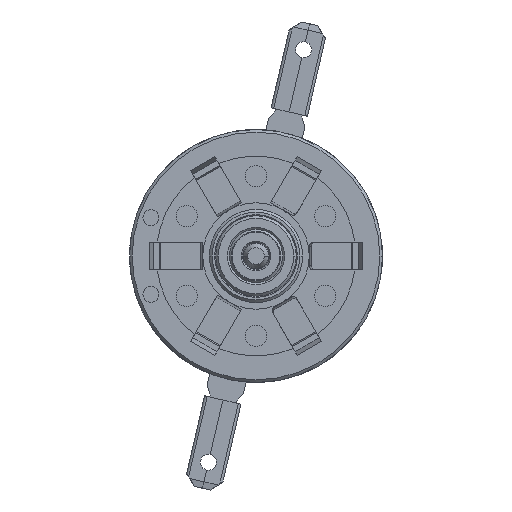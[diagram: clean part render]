
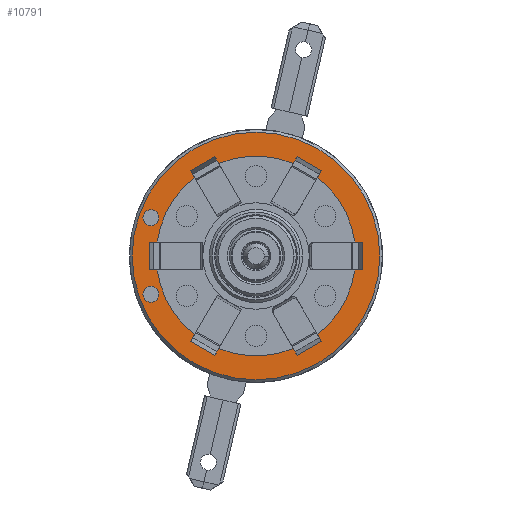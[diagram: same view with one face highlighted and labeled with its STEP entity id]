
A CAD part, left-side view. The second image highlights one B-rep face of the part: STEP entity #10791.
In plain terms, the highlighted planar face has unit normal (-1, 0, 0).
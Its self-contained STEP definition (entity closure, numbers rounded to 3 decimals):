
#2899=CARTESIAN_POINT('',(-1.4,0.,0.));
#2900=DIRECTION('',(-1.,0.,0.));
#2901=DIRECTION('',(0.,-1.,0.));
#2902=AXIS2_PLACEMENT_3D('',#2899,#2900,#2901);
#2907=CARTESIAN_POINT('',(-1.4,0.,0.));
#2908=DIRECTION('',(-1.,0.,0.));
#2909=DIRECTION('',(0.,1.,0.));
#2910=AXIS2_PLACEMENT_3D('',#2907,#2908,#2909);
#2915=CARTESIAN_POINT('',(-1.4,7.89,-2.87));
#2916=DIRECTION('',(1.,0.,0.));
#2917=DIRECTION('',(0.,1.,0.));
#2918=AXIS2_PLACEMENT_3D('',#2915,#2916,#2917);
#2923=CARTESIAN_POINT('',(-1.4,7.89,-2.87));
#2924=DIRECTION('',(1.,0.,0.));
#2925=DIRECTION('',(0.,-1.,0.));
#2926=AXIS2_PLACEMENT_3D('',#2923,#2924,#2925);
#2931=CARTESIAN_POINT('',(-1.4,7.89,2.87));
#2932=DIRECTION('',(1.,0.,0.));
#2933=DIRECTION('',(0.,1.,0.));
#2934=AXIS2_PLACEMENT_3D('',#2931,#2932,#2933);
#2939=CARTESIAN_POINT('',(-1.4,7.89,2.87));
#2940=DIRECTION('',(1.,0.,0.));
#2941=DIRECTION('',(0.,-1.,0.));
#2942=AXIS2_PLACEMENT_3D('',#2939,#2940,#2941);
#2947=DIRECTION('',(0.,-0.5,0.866));
#2948=VECTOR('',#2947,0.574);
#2949=CARTESIAN_POINT('',(-1.4,-4.622,5.906));
#2950=LINE('',#2949,#2948);
#2954=DIRECTION('',(0.,0.866,0.5));
#2955=VECTOR('',#2954,2.1);
#2956=CARTESIAN_POINT('',(-1.4,-4.909,6.403));
#2957=LINE('',#2956,#2955);
#2961=DIRECTION('',(0.,-0.5,0.866));
#2962=VECTOR('',#2961,0.574);
#2963=CARTESIAN_POINT('',(-1.4,-2.804,6.956));
#2964=LINE('',#2963,#2962);
#2968=DIRECTION('',(0.,0.5,0.866));
#2969=VECTOR('',#2968,0.574);
#2970=CARTESIAN_POINT('',(-1.4,2.804,6.956));
#2971=LINE('',#2970,#2969);
#2975=DIRECTION('',(0.,0.866,-0.5));
#2976=VECTOR('',#2975,2.1);
#2977=CARTESIAN_POINT('',(-1.4,3.091,7.453));
#2978=LINE('',#2977,#2976);
#2982=DIRECTION('',(0.,0.5,0.866));
#2983=VECTOR('',#2982,0.574);
#2984=CARTESIAN_POINT('',(-1.4,4.622,5.906));
#2985=LINE('',#2984,#2983);
#2989=DIRECTION('',(0.,1.,0.));
#2990=VECTOR('',#2989,0.574);
#2991=CARTESIAN_POINT('',(-1.4,7.426,1.05));
#2992=LINE('',#2991,#2990);
#2996=DIRECTION('',(0.,0.,-1.));
#2997=VECTOR('',#2996,2.1);
#2998=CARTESIAN_POINT('',(-1.4,8.,1.05));
#2999=LINE('',#2998,#2997);
#3003=DIRECTION('',(0.,1.,0.));
#3004=VECTOR('',#3003,0.574);
#3005=CARTESIAN_POINT('',(-1.4,7.426,-1.05));
#3006=LINE('',#3005,#3004);
#3010=DIRECTION('',(0.,-0.5,0.866));
#3011=VECTOR('',#3010,0.574);
#3012=CARTESIAN_POINT('',(-1.4,4.909,-6.403));
#3013=LINE('',#3012,#3011);
#3017=DIRECTION('',(0.,-0.866,-0.5));
#3018=VECTOR('',#3017,2.1);
#3019=CARTESIAN_POINT('',(-1.4,4.909,-6.403));
#3020=LINE('',#3019,#3018);
#3024=DIRECTION('',(0.,-0.5,0.866));
#3025=VECTOR('',#3024,0.574);
#3026=CARTESIAN_POINT('',(-1.4,3.091,-7.453));
#3027=LINE('',#3026,#3025);
#3031=DIRECTION('',(0.,0.5,0.866));
#3032=VECTOR('',#3031,0.574);
#3033=CARTESIAN_POINT('',(-1.4,-3.091,-7.453));
#3034=LINE('',#3033,#3032);
#3038=DIRECTION('',(0.,-0.866,0.5));
#3039=VECTOR('',#3038,2.1);
#3040=CARTESIAN_POINT('',(-1.4,-3.091,-7.453));
#3041=LINE('',#3040,#3039);
#3045=DIRECTION('',(0.,0.5,0.866));
#3046=VECTOR('',#3045,0.574);
#3047=CARTESIAN_POINT('',(-1.4,-4.909,-6.403));
#3048=LINE('',#3047,#3046);
#3052=DIRECTION('',(0.,1.,0.));
#3053=VECTOR('',#3052,0.574);
#3054=CARTESIAN_POINT('',(-1.4,-8.,-1.05));
#3055=LINE('',#3054,#3053);
#3059=DIRECTION('',(0.,0.,1.));
#3060=VECTOR('',#3059,2.1);
#3061=CARTESIAN_POINT('',(-1.4,-8.,-1.05));
#3062=LINE('',#3061,#3060);
#3066=DIRECTION('',(0.,1.,0.));
#3067=VECTOR('',#3066,0.574);
#3068=CARTESIAN_POINT('',(-1.4,-8.,1.05));
#3069=LINE('',#3068,#3067);
#3527=CARTESIAN_POINT('',(-1.4,0.,0.));
#3528=DIRECTION('',(1.,0.,0.));
#3529=DIRECTION('',(0.,-0.99,-0.14));
#3530=AXIS2_PLACEMENT_3D('',#3527,#3528,#3529);
#3779=CARTESIAN_POINT('',(-1.4,0.,0.));
#3780=DIRECTION('',(1.,0.,0.));
#3781=DIRECTION('',(0.,-0.374,-0.927));
#3782=AXIS2_PLACEMENT_3D('',#3779,#3780,#3781);
#4005=CARTESIAN_POINT('',(-1.4,0.,0.));
#4006=DIRECTION('',(1.,0.,0.));
#4007=DIRECTION('',(0.,0.616,-0.787));
#4008=AXIS2_PLACEMENT_3D('',#4005,#4006,#4007);
#4231=CARTESIAN_POINT('',(-1.4,0.,0.));
#4232=DIRECTION('',(1.,0.,0.));
#4233=DIRECTION('',(0.,0.99,0.14));
#4234=AXIS2_PLACEMENT_3D('',#4231,#4232,#4233);
#4457=CARTESIAN_POINT('',(-1.4,0.,0.));
#4458=DIRECTION('',(1.,0.,0.));
#4459=DIRECTION('',(0.,0.374,0.927));
#4460=AXIS2_PLACEMENT_3D('',#4457,#4458,#4459);
#4645=CARTESIAN_POINT('',(-1.4,0.,0.));
#4646=DIRECTION('',(1.,0.,0.));
#4647=DIRECTION('',(0.,-0.616,0.787));
#4648=AXIS2_PLACEMENT_3D('',#4645,#4646,#4647);
#8276=CARTESIAN_POINT('',(-1.4,-9.3,0.));
#8277=CARTESIAN_POINT('',(-1.4,9.3,0.));
#8278=VERTEX_POINT('',#8276);
#8279=VERTEX_POINT('',#8277);
#8292=CARTESIAN_POINT('',(-1.4,8.49,-2.87));
#8293=CARTESIAN_POINT('',(-1.4,7.29,-2.87));
#8294=VERTEX_POINT('',#8292);
#8295=VERTEX_POINT('',#8293);
#8296=CARTESIAN_POINT('',(-1.4,-8.,-1.05));
#8297=CARTESIAN_POINT('',(-1.4,-7.426,-1.05));
#8298=VERTEX_POINT('',#8296);
#8299=VERTEX_POINT('',#8297);
#8300=CARTESIAN_POINT('',(-1.4,-8.,1.05));
#8301=CARTESIAN_POINT('',(-1.4,-7.426,1.05));
#8302=VERTEX_POINT('',#8300);
#8303=VERTEX_POINT('',#8301);
#8388=CARTESIAN_POINT('',(-1.4,-3.091,-7.453));
#8389=CARTESIAN_POINT('',(-1.4,-2.804,-6.956));
#8390=VERTEX_POINT('',#8388);
#8391=VERTEX_POINT('',#8389);
#8392=CARTESIAN_POINT('',(-1.4,-4.909,-6.403));
#8393=CARTESIAN_POINT('',(-1.4,-4.622,-5.906));
#8394=VERTEX_POINT('',#8392);
#8395=VERTEX_POINT('',#8393);
#8404=CARTESIAN_POINT('',(-1.4,4.909,-6.403));
#8405=CARTESIAN_POINT('',(-1.4,4.622,-5.906));
#8406=VERTEX_POINT('',#8404);
#8407=VERTEX_POINT('',#8405);
#8408=CARTESIAN_POINT('',(-1.4,3.091,-7.453));
#8409=CARTESIAN_POINT('',(-1.4,2.804,-6.956));
#8410=VERTEX_POINT('',#8408);
#8411=VERTEX_POINT('',#8409);
#8466=CARTESIAN_POINT('',(-1.4,8.49,2.87));
#8467=CARTESIAN_POINT('',(-1.4,7.29,2.87));
#8468=VERTEX_POINT('',#8466);
#8469=VERTEX_POINT('',#8467);
#8550=CARTESIAN_POINT('',(-1.4,7.426,1.05));
#8551=CARTESIAN_POINT('',(-1.4,8.,1.05));
#8552=VERTEX_POINT('',#8550);
#8553=VERTEX_POINT('',#8551);
#8554=CARTESIAN_POINT('',(-1.4,7.426,-1.05));
#8555=CARTESIAN_POINT('',(-1.4,8.,-1.05));
#8556=VERTEX_POINT('',#8554);
#8557=VERTEX_POINT('',#8555);
#8578=CARTESIAN_POINT('',(-1.4,2.804,6.956));
#8579=CARTESIAN_POINT('',(-1.4,3.091,7.453));
#8580=VERTEX_POINT('',#8578);
#8581=VERTEX_POINT('',#8579);
#8582=CARTESIAN_POINT('',(-1.4,4.622,5.906));
#8583=CARTESIAN_POINT('',(-1.4,4.909,6.403));
#8584=VERTEX_POINT('',#8582);
#8585=VERTEX_POINT('',#8583);
#8602=CARTESIAN_POINT('',(-1.4,-4.622,5.906));
#8603=CARTESIAN_POINT('',(-1.4,-4.909,6.403));
#8604=VERTEX_POINT('',#8602);
#8605=VERTEX_POINT('',#8603);
#8606=CARTESIAN_POINT('',(-1.4,-2.804,6.956));
#8607=CARTESIAN_POINT('',(-1.4,-3.091,7.453));
#8608=VERTEX_POINT('',#8606);
#8609=VERTEX_POINT('',#8607);
#10721=CARTESIAN_POINT('',(-1.4,0.,0.));
#10722=DIRECTION('',(1.,0.,0.));
#10723=DIRECTION('',(0.,-1.,0.));
#10724=AXIS2_PLACEMENT_3D('',#10721,#10722,#10723);
#10725=PLANE('',#10724);
#10727=ORIENTED_EDGE('',*,*,#10726,.F.);
#10729=ORIENTED_EDGE('',*,*,#10728,.F.);
#10730=EDGE_LOOP('',(#10727,#10729));
#10731=FACE_OUTER_BOUND('',#10730,.F.);
#10733=ORIENTED_EDGE('',*,*,#10732,.F.);
#10735=ORIENTED_EDGE('',*,*,#10734,.F.);
#10736=EDGE_LOOP('',(#10733,#10735));
#10737=FACE_BOUND('',#10736,.F.);
#10739=ORIENTED_EDGE('',*,*,#10738,.F.);
#10741=ORIENTED_EDGE('',*,*,#10740,.F.);
#10742=EDGE_LOOP('',(#10739,#10741));
#10743=FACE_BOUND('',#10742,.F.);
#10745=ORIENTED_EDGE('',*,*,#10744,.T.);
#10747=ORIENTED_EDGE('',*,*,#10746,.T.);
#10749=ORIENTED_EDGE('',*,*,#10748,.F.);
#10751=ORIENTED_EDGE('',*,*,#10750,.F.);
#10753=ORIENTED_EDGE('',*,*,#10752,.T.);
#10755=ORIENTED_EDGE('',*,*,#10754,.T.);
#10757=ORIENTED_EDGE('',*,*,#10756,.F.);
#10759=ORIENTED_EDGE('',*,*,#10758,.F.);
#10761=ORIENTED_EDGE('',*,*,#10760,.T.);
#10763=ORIENTED_EDGE('',*,*,#10762,.T.);
#10765=ORIENTED_EDGE('',*,*,#10764,.F.);
#10767=ORIENTED_EDGE('',*,*,#10766,.F.);
#10769=ORIENTED_EDGE('',*,*,#10768,.F.);
#10771=ORIENTED_EDGE('',*,*,#10770,.T.);
#10773=ORIENTED_EDGE('',*,*,#10772,.T.);
#10775=ORIENTED_EDGE('',*,*,#10774,.F.);
#10777=ORIENTED_EDGE('',*,*,#10776,.F.);
#10779=ORIENTED_EDGE('',*,*,#10778,.T.);
#10781=ORIENTED_EDGE('',*,*,#10780,.T.);
#10783=ORIENTED_EDGE('',*,*,#10782,.F.);
#10784=ORIENTED_EDGE('',*,*,#10640,.F.);
#10785=ORIENTED_EDGE('',*,*,#10708,.T.);
#10786=ORIENTED_EDGE('',*,*,#10588,.T.);
#10788=ORIENTED_EDGE('',*,*,#10787,.F.);
#10789=EDGE_LOOP('',(#10745,#10747,#10749,#10751,#10753,#10755,#10757,#10759,
#10761,#10763,#10765,#10767,#10769,#10771,#10773,#10775,#10777,#10779,#10781,
#10783,#10784,#10785,#10786,#10788));
#10790=FACE_BOUND('',#10789,.F.);
#10791=ADVANCED_FACE('',(#10731,#10737,#10743,#10790),#10725,.F.);
#2903=CIRCLE('',#2902,9.3);
#2911=CIRCLE('',#2910,9.3);
#2919=CIRCLE('',#2918,0.6);
#2927=CIRCLE('',#2926,0.6);
#2935=CIRCLE('',#2934,0.6);
#2943=CIRCLE('',#2942,0.6);
#3531=CIRCLE('',#3530,7.5);
#3783=CIRCLE('',#3782,7.5);
#4009=CIRCLE('',#4008,7.5);
#4235=CIRCLE('',#4234,7.5);
#4461=CIRCLE('',#4460,7.5);
#4649=CIRCLE('',#4648,7.5);
#10588=EDGE_CURVE('',#8302,#8303,#3069,.T.);
#10640=EDGE_CURVE('',#8298,#8299,#3055,.T.);
#10708=EDGE_CURVE('',#8298,#8302,#3062,.T.);
#10726=EDGE_CURVE('',#8278,#8279,#2903,.T.);
#10728=EDGE_CURVE('',#8279,#8278,#2911,.T.);
#10732=EDGE_CURVE('',#8294,#8295,#2919,.T.);
#10734=EDGE_CURVE('',#8295,#8294,#2927,.T.);
#10738=EDGE_CURVE('',#8468,#8469,#2935,.T.);
#10740=EDGE_CURVE('',#8469,#8468,#2943,.T.);
#10744=EDGE_CURVE('',#8604,#8605,#2950,.T.);
#10746=EDGE_CURVE('',#8605,#8609,#2957,.T.);
#10748=EDGE_CURVE('',#8608,#8609,#2964,.T.);
#10750=EDGE_CURVE('',#8580,#8608,#4461,.T.);
#10752=EDGE_CURVE('',#8580,#8581,#2971,.T.);
#10754=EDGE_CURVE('',#8581,#8585,#2978,.T.);
#10756=EDGE_CURVE('',#8584,#8585,#2985,.T.);
#10758=EDGE_CURVE('',#8552,#8584,#4235,.T.);
#10760=EDGE_CURVE('',#8552,#8553,#2992,.T.);
#10762=EDGE_CURVE('',#8553,#8557,#2999,.T.);
#10764=EDGE_CURVE('',#8556,#8557,#3006,.T.);
#10766=EDGE_CURVE('',#8407,#8556,#4009,.T.);
#10768=EDGE_CURVE('',#8406,#8407,#3013,.T.);
#10770=EDGE_CURVE('',#8406,#8410,#3020,.T.);
#10772=EDGE_CURVE('',#8410,#8411,#3027,.T.);
#10774=EDGE_CURVE('',#8391,#8411,#3783,.T.);
#10776=EDGE_CURVE('',#8390,#8391,#3034,.T.);
#10778=EDGE_CURVE('',#8390,#8394,#3041,.T.);
#10780=EDGE_CURVE('',#8394,#8395,#3048,.T.);
#10782=EDGE_CURVE('',#8299,#8395,#3531,.T.);
#10787=EDGE_CURVE('',#8604,#8303,#4649,.T.);
